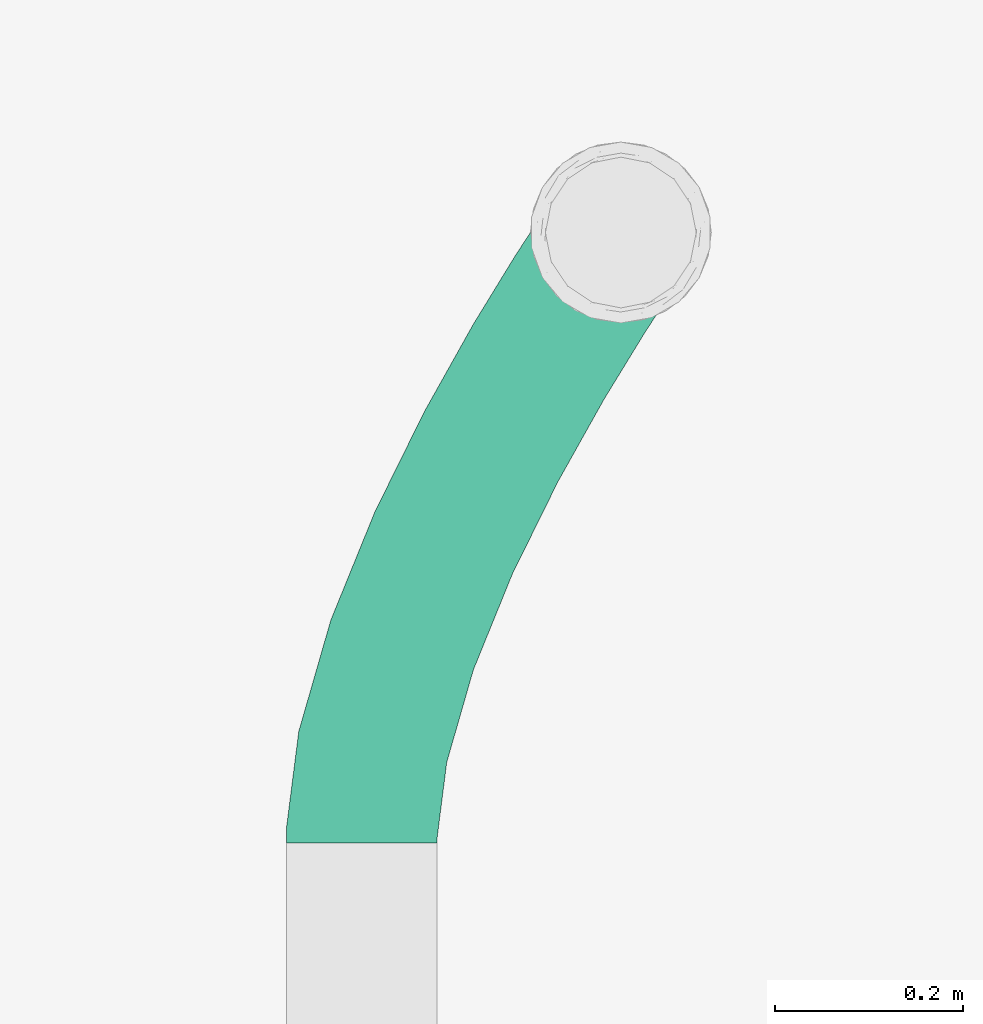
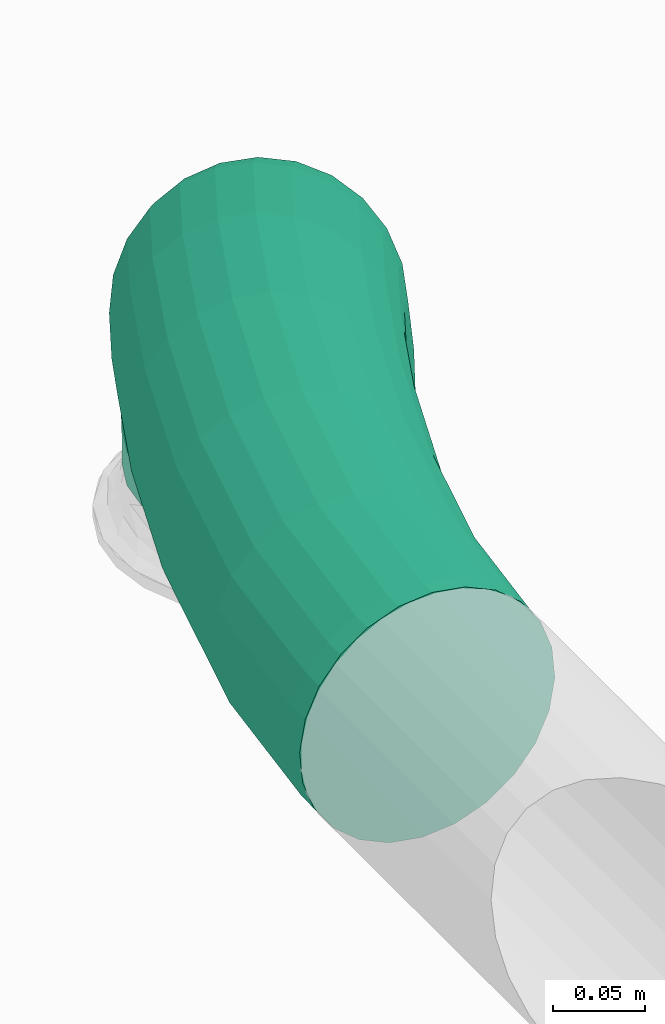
# One storey, part 29 of 31: 1 flow segment.
"""IFC2X3 building model written with IfcOpenShell, lengths in millimetres."""

import ifcopenshell
import ifcopenshell.guid

model = None  # the IFC model being written
_history = None  # IfcOwnerHistory: only IFC2X3 demands one
_inside = {}  # id of a spatial element -> (the spatial element, [elements in it])
_under = {}  # id of a project, library or spatial element -> (it, [spatial elements below it])
_declared = {}  # id of a project -> (the project, [libraries it declares])
_typed = {}  # id of a type object -> (the type object, [elements of that type])
_made_of = {}  # id of a material, layer set ... -> (it, [elements and type objects made of it])


def new_model(schema):
    """Start an empty IFC model of exactly this schema.

    Asked for "IFC4X3", IfcOpenShell would pick the latest addendum, in which some entities
    have other attributes; the version numbers below select the first issue.
    IFC2X3 requires an IfcOwnerHistory on every rooted entity: one is made here for all.
    """
    global model, _history
    if schema == "IFC4X3":
        model = ifcopenshell.file(schema_version=(4, 3, 0, 0))
    else:
        model = ifcopenshell.file(schema=schema)
    _inside.clear()
    _under.clear()
    _declared.clear()
    _typed.clear()
    _made_of.clear()
    _history = None
    if model.schema == "IFC2X3":
        org = make("IfcOrganization", Name="unknown")
        user = make(
            "IfcPersonAndOrganization",
            ThePerson=make("IfcPerson", FamilyName="unknown"),
            TheOrganization=org,
        )
        app = make(
            "IfcApplication",
            ApplicationDeveloper=org,
            Version="unknown",
            ApplicationFullName="unknown",
            ApplicationIdentifier="unknown",
        )
        _history = make(
            "IfcOwnerHistory",
            OwningUser=user,
            OwningApplication=app,
            ChangeAction="ADDED",
            CreationDate=0,
        )
    return model


def make(cls, **values):
    """One entity of the class cls with the attributes given. An attribute that is None is left unset."""
    return model.create_entity(
        cls, **{name: value for name, value in values.items() if value is not None}
    )


def entity(cls, *values):
    """Any entity or typed value of the class cls, its attributes in the order of the schema. None: left unset."""
    e = model.create_entity(cls)
    for i, value in enumerate(values):
        if value is not None:
            e[i] = value
    return e


def rooted(cls, **values):
    """An entity with a GlobalId (a new one), such as an element, a storey or a relation."""
    return make(cls, GlobalId=ifcopenshell.guid.new(), OwnerHistory=_history, **values)


def si_unit(unit_type, name, prefix=None):
    """IfcSIUnit, for example si_unit("LENGTHUNIT", "METRE", prefix="MILLI")."""
    return make("IfcSIUnit", UnitType=unit_type, Prefix=prefix, Name=name)


def converted_unit(unit_type, name, factor, base, dimensions=None, offset=None):
    """IfcConversionBasedUnit, such as the inch: factor (a typed value) times the base unit."""
    return make(
        "IfcConversionBasedUnit"
        if offset is None
        else "IfcConversionBasedUnitWithOffset",
        ConversionOffset=offset,
        Dimensions=None
        if dimensions is None
        else entity("IfcDimensionalExponents", *dimensions),
        UnitType=unit_type,
        Name=name,
        ConversionFactor=make(
            "IfcMeasureWithUnit", ValueComponent=factor, UnitComponent=base
        ),
    )


def derived_unit(unit_type, elements):
    """IfcDerivedUnit: a product of units, each with its exponent."""
    return make(
        "IfcDerivedUnit",
        Elements=[
            make("IfcDerivedUnitElement", Unit=unit, Exponent=power)
            for unit, power in elements
        ],
        UnitType=unit_type,
    )


def assignment(units):
    """IfcUnitAssignment: the units of a project."""
    return None if units is None else make("IfcUnitAssignment", Units=units)


def point(xyz):
    """IfcCartesianPoint."""
    return None if xyz is None else make("IfcCartesianPoint", Coordinates=xyz)


def direction(xyz):
    """IfcDirection."""
    return None if xyz is None else make("IfcDirection", DirectionRatios=xyz)


def frame(location, z_axis=None, x_axis=None):
    """IfcAxis2Placement3D, a coordinate frame: its origin and axes. An axis left out is left unset."""
    return make(
        "IfcAxis2Placement3D",
        Location=point(location),
        Axis=direction(z_axis),
        RefDirection=direction(x_axis),
    )


def origin():
    """The frame at (0, 0, 0) with its axes left unset."""
    return frame((0.0, 0.0, 0.0))


def place(relative_to, where):
    """IfcLocalPlacement: puts the frame where relative to a parent placement (None: the world)."""
    return make(
        "IfcLocalPlacement", PlacementRelTo=relative_to, RelativePlacement=where
    )


def context(
    kind, dimensions, precision=None, world=None, true_north=None, identifier=None
):
    """IfcGeometricRepresentationContext, for example the 3D "Model" context."""
    return make(
        "IfcGeometricRepresentationContext",
        ContextIdentifier=identifier,
        ContextType=kind,
        CoordinateSpaceDimension=dimensions,
        Precision=precision,
        WorldCoordinateSystem=world,
        TrueNorth=true_north,
    )


def subcontext(parent, identifier, kind, view, scale=None):
    """IfcGeometricRepresentationSubContext, for example "Body" below "Model"."""
    return make(
        "IfcGeometricRepresentationSubContext",
        ContextIdentifier=identifier,
        ContextType=kind,
        ParentContext=parent,
        TargetScale=scale,
        TargetView=view,
    )


def project(units=None, contexts=None):
    """IfcProject with its units and contexts."""
    return rooted(
        "IfcProject",
        Name="project",
        RepresentationContexts=contexts,
        UnitsInContext=assignment(units),
    )


def spatial(cls, under=None, at=None, **own):
    """A site, building, storey or space (cls), placed at a placement, below another one or the project."""
    s = rooted(cls, ObjectPlacement=at, **own)
    if under is not None:
        _under.setdefault(under.id(), (under, []))[1].append(s)
    return s


def faces_of(points, faces, orient=None, outer=None):
    """IfcFace entities. A face is a list of loops; a loop is a list of indices into points, from 0.

    orient and outer hold one flag for each loop. By default every Orientation is true, the
    first loop of a face is its IfcFaceOuterBound and the others are IfcFaceBound.
    """
    made = []
    for i, loops in enumerate(faces):
        bounds = []
        for j, loop in enumerate(loops):
            is_outer = j == 0 if outer is None else outer[i][j]
            bounds.append(
                make(
                    "IfcFaceOuterBound" if is_outer else "IfcFaceBound",
                    Bound=make("IfcPolyLoop", Polygon=[points[k] for k in loop]),
                    Orientation=True if orient is None else orient[i][j],
                )
            )
        made.append(make("IfcFace", Bounds=bounds))
    return made


def faceted_brep(points, faces, orient=None, outer=None, voids=None):
    """IfcFacetedBrep: a solid bounded by flat faces; with voids (closed shells), ...WithVoids."""
    shared = [point(p) for p in points]
    hull = make("IfcClosedShell", CfsFaces=faces_of(shared, faces, orient, outer))
    if voids is None:
        return make("IfcFacetedBrep", Outer=hull)
    return make(
        "IfcFacetedBrepWithVoids",
        Outer=hull,
        Voids=[
            make(cls, CfsFaces=faces_of(shared, fs, o, b)) for cls, fs, o, b in voids
        ],
    )


def shape(context_of_items, identifier, shape_type, items):
    """IfcShapeRepresentation: the items that make up one representation, for example the "Body"."""
    return make(
        "IfcShapeRepresentation",
        ContextOfItems=context_of_items,
        RepresentationIdentifier=identifier,
        RepresentationType=shape_type,
        Items=items,
    )


def made_of(thing, what):
    """Note that an element or type object is made of a material, layer set ...; save() writes the relation."""
    if what is not None:
        _made_of.setdefault(what.id(), (what, []))[1].append(thing)
    return thing


def type_object(cls, material=None, **own):
    """A type object (cls), such as IfcWallType, which elements share."""
    return made_of(rooted(cls, **own), material)


def element(
    cls,
    number,
    at=None,
    inside=None,
    cuts=None,
    type_object=None,
    material=None,
    context=None,
    identifier="Body",
    shape_type=None,
    held_by="IfcProductDefinitionShape",
    body=None,
    shapes=None,
    **own,
):
    """One element of the class cls, such as IfcWall. Its Tag is "e" and its number.

    at: its placement. inside: the storey or other place that contains it. cuts: it is an
    opening in that element (IfcRelVoidsElement). A single representation is given by context,
    identifier, shape_type and body (its items); several are given by shapes. held_by: the class
    of the entity that holds the representations. save() writes the other relations.
    """
    e = rooted(cls, Tag="e%d" % number, ObjectPlacement=at, **own)
    if body is not None:
        shapes = [shape(context, identifier, shape_type, body)]
    if shapes is not None:
        e.Representation = make(held_by, Representations=shapes)
    if inside is not None:
        _inside.setdefault(inside.id(), (inside, []))[1].append(e)
    if cuts is not None:
        rooted(
            "IfcRelVoidsElement", RelatingBuildingElement=cuts, RelatedOpeningElement=e
        )
    if type_object is not None:
        _typed.setdefault(type_object.id(), (type_object, []))[1].append(e)
    return made_of(e, material)


def aggregate(whole, parts):
    """IfcRelAggregates: a whole, such as a stair, and the parts it consists of."""
    return rooted("IfcRelAggregates", RelatingObject=whole, RelatedObjects=parts)


def save(model, path):
    """Write the relations noted so far, then the file.

    IfcRelAggregates (storeys below a building ...), IfcRelContainedInSpatialStructure (elements
    in a storey), IfcRelDefinesByType, IfcRelAssociatesMaterial and IfcRelDeclares: one each for
    every whole, place, type object, material and project.
    """
    for whole, parts in _under.values():
        aggregate(whole, parts)
    for where, things in _inside.values():
        rooted(
            "IfcRelContainedInSpatialStructure",
            RelatedElements=things,
            RelatingStructure=where,
        )
    for kind, things in _typed.values():
        rooted("IfcRelDefinesByType", RelatedObjects=things, RelatingType=kind)
    for what, things in _made_of.values():
        rooted("IfcRelAssociatesMaterial", RelatedObjects=things, RelatingMaterial=what)
    for by, libraries in _declared.values():
        rooted("IfcRelDeclares", RelatingContext=by, RelatedDefinitions=libraries)
    model.write(path)


model = new_model("IFC2X3")

# Units and contexts
model_context = context("Model", 3, precision=0.01, world=origin(), true_north=direction((6.123031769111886e-17, 1.0)))
body_context = subcontext(model_context, "Body", "Model", "MODEL_VIEW")
ifc_project = project(units=[si_unit("LENGTHUNIT", "METRE", prefix="MILLI"), si_unit("AREAUNIT", "SQUARE_METRE"), si_unit("VOLUMEUNIT", "CUBIC_METRE"), converted_unit("PLANEANGLEUNIT", "DEGREE", entity("IfcRatioMeasure", 0.017453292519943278), si_unit("PLANEANGLEUNIT", "RADIAN"), dimensions=[0, 0, 0, 0, 0, 0, 0]), si_unit("MASSUNIT", "GRAM", prefix="KILO"), derived_unit("MASSDENSITYUNIT", [(si_unit("MASSUNIT", "GRAM", prefix="KILO"), 1), (si_unit("LENGTHUNIT", "METRE"), -3)]), derived_unit("MOMENTOFINERTIAUNIT", [(si_unit("LENGTHUNIT", "METRE"), 4)]), si_unit("TIMEUNIT", "SECOND"), si_unit("FREQUENCYUNIT", "HERTZ"), si_unit("THERMODYNAMICTEMPERATUREUNIT", "DEGREE_CELSIUS"), derived_unit("THERMALTRANSMITTANCEUNIT", [(si_unit("MASSUNIT", "GRAM", prefix="KILO"), 1), (si_unit("THERMODYNAMICTEMPERATUREUNIT", "KELVIN"), -1), (si_unit("TIMEUNIT", "SECOND"), -3)]), derived_unit("VOLUMETRICFLOWRATEUNIT", [(si_unit("LENGTHUNIT", "METRE"), 3), (si_unit("TIMEUNIT", "SECOND"), -1)]), derived_unit("MASSFLOWRATEUNIT", [(si_unit("MASSUNIT", "GRAM", prefix="KILO"), 1), (si_unit("TIMEUNIT", "SECOND"), -1)]), derived_unit("ROTATIONALFREQUENCYUNIT", [(si_unit("TIMEUNIT", "SECOND"), -1)]), si_unit("ELECTRICCURRENTUNIT", "AMPERE"), si_unit("ELECTRICVOLTAGEUNIT", "VOLT"), si_unit("POWERUNIT", "WATT"), si_unit("FORCEUNIT", "NEWTON", prefix="KILO"), si_unit("ILLUMINANCEUNIT", "LUX"), si_unit("LUMINOUSFLUXUNIT", "LUMEN"), si_unit("LUMINOUSINTENSITYUNIT", "CANDELA"), derived_unit("USERDEFINED", [(si_unit("MASSUNIT", "GRAM", prefix="KILO"), -1), (si_unit("LENGTHUNIT", "METRE"), -2), (si_unit("TIMEUNIT", "SECOND"), 3), (si_unit("LUMINOUSFLUXUNIT", "LUMEN"), 1)]), derived_unit("SOUNDPOWERUNIT", [(si_unit("MASSUNIT", "GRAM", prefix="KILO"), 1), (si_unit("LENGTHUNIT", "METRE"), 2), (si_unit("TIMEUNIT", "SECOND"), -3)]), derived_unit("SOUNDPRESSUREUNIT", [(si_unit("MASSUNIT", "GRAM", prefix="KILO"), 1), (si_unit("LENGTHUNIT", "METRE"), -1), (si_unit("TIMEUNIT", "SECOND"), -2)]), derived_unit("LINEARVELOCITYUNIT", [(si_unit("LENGTHUNIT", "METRE"), 1), (si_unit("TIMEUNIT", "SECOND"), -1)]), si_unit("PRESSUREUNIT", "PASCAL"), derived_unit("USERDEFINED", [(si_unit("LENGTHUNIT", "METRE"), -2), (si_unit("MASSUNIT", "GRAM", prefix="KILO"), 1), (si_unit("TIMEUNIT", "SECOND"), -2)]), derived_unit("LINEARFORCEUNIT", [(si_unit("MASSUNIT", "GRAM", prefix="KILO"), 1), (si_unit("LENGTHUNIT", "METRE"), 1), (si_unit("TIMEUNIT", "SECOND"), -2), (si_unit("LENGTHUNIT", "METRE"), -1)]), derived_unit("PLANARFORCEUNIT", [(si_unit("MASSUNIT", "GRAM", prefix="KILO"), 1), (si_unit("LENGTHUNIT", "METRE"), 1), (si_unit("TIMEUNIT", "SECOND"), -2), (si_unit("LENGTHUNIT", "METRE"), -2)])], contexts=[model_context])

# Site, building, storey
site_placement = place(None, origin())
site = spatial("IfcSite", under=ifc_project, at=site_placement, Name="Default", CompositionType="ELEMENT")
building_placement = place(site_placement, origin())
building = spatial("IfcBuilding", under=site, at=building_placement, CompositionType="ELEMENT")
storey_placement = place(building_placement, frame((0.0, 0.0, 3880.0)))
storey = spatial("IfcBuildingStorey", under=building, at=storey_placement, Name="Niveau 1", CompositionType="ELEMENT", Elevation=3880.0)

# Flow segment
duct_segment_type = type_object("IfcDuctSegmentType", Name="Gaine flexible circulaire:Souple - Circulaire piquage Aldes", PredefinedType="FLEXIBLESEGMENT")
flow_segment_placement = place(storey_placement, frame((-2276.532732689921, -2167.5525328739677, 2827.5000000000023)))
element("IfcFlowSegment", 1, at=flow_segment_placement, inside=storey, type_object=duct_segment_type, Name="Gaine flexible circulaire:Souple - Circulaire piquage Aldes", ObjectType="Gaine flexible circulaire:Souple - Circulaire piquage Aldes", context=body_context, shape_type="Brep", body=[
    faceted_brep([(287.2507003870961, 607.5525328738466, 0.0), (279.25866658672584, 626.8470092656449, 0.0), (276.53273268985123, 647.5525328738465, 0.0), (279.25866658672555, 668.258056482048, 0.0), (287.25070038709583, 687.5525328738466, 0.0), (299.96419019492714, 704.1210753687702, 0.0), (316.5327326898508, 716.8345651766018, 0.0), (335.8272090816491, 724.826598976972, 0.0), (356.5327326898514, 727.5525328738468, 0.0), (377.238256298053, 724.826598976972, 0.0), (396.5327326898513, 716.8345651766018, 0.0), (413.1012751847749, 704.1210753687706, 0.0), (425.81476499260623, 687.5525328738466, 0.0), (433.80679879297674, 668.2580564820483, 0.0), (436.5327326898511, 647.5525328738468, 0.0), (433.80679879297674, 626.8470092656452, 0.0), (425.81476499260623, 607.5525328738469, 0.0), (413.1012751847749, 590.983990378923, 0.0), (396.5327326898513, 578.2705005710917, 0.0), (377.238256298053, 570.2784667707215, 0.0), (356.5327326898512, 567.5525328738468, 0.0), (335.8272090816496, 570.2784667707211, 0.0), (316.5327326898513, 578.2705005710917, 0.0), (299.96419019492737, 590.9839903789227, 0.0), (436.5327326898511, 647.5525328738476, 25.1649569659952), (433.80679879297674, 626.847009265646, 22.42221783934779), (425.81476499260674, 607.5525328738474, 19.412461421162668), (413.1012751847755, 590.9839903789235, 16.34079763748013), (377.238256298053, 570.2784667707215, 10.839016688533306), (356.5327326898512, 567.5525328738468, 8.78383680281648), (396.5327326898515, 578.2705005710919, 13.416555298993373), (335.82720908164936, 570.2784667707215, 7.391072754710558), (316.53273268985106, 578.2705005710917, 6.7556391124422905), (299.96419019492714, 590.983990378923, 6.920839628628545), (279.25866658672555, 626.8470092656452, 9.554315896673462), (276.53273268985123, 647.5525328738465, 11.843124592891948), (287.2507003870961, 607.5525328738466, 7.875416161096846), (287.25070038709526, 687.5525328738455, 17.595620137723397), (299.964190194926, 704.1210753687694, 20.667283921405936), (279.25866658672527, 668.2580564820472, 14.58586371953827), (316.5327326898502, 716.8345651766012, 23.59152625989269), (335.8272090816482, 724.8265989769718, 26.169064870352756), (356.5327326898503, 727.5525328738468, 28.22424475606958), (377.2382562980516, 724.8265989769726, 29.617008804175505), (396.5327326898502, 716.8345651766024, 30.252442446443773), (413.10127518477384, 704.1210753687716, 30.08724193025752), (425.8147649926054, 687.5525328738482, 29.132665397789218), (433.8067987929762, 668.2580564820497, 27.4537656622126), (63.8982901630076, 0.0, 400.5322140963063), (44.30294608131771, 0.0, 393.3092013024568), (27.244750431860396, 0.0, 381.2606584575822), (13.886191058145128, 0.0, 365.20767384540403), (5.137631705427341, 0.0, 346.24423183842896), (1.5952722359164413, 0.0, 325.662659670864), (3.5005185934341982, 0.0, 304.8655574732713), (10.723531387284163, 0.0, 285.2702133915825), (22.77207423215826, 0.0, 268.21201774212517), (38.825058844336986, 0.0, 254.85345836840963), (57.78850085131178, 0.0, 246.1048990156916), (78.37007301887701, 0.0, 242.56253954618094), (99.16717521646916, 0.0, 244.4677859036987), (118.7625192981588, 0.0, 251.69079869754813), (135.82071494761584, 0.0, 263.7393415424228), (149.1792743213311, 0.0, 279.79232615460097), (157.92783367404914, 0.0, 298.75576816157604), (161.47019314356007, 0.0, 319.337340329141), (159.5649467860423, 0.0, 340.13444252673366), (152.3419339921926, 0.0, 359.7297866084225), (140.29339114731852, 0.0, 376.7879822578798), (124.24040653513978, 0.0, 390.1465416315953), (105.27696452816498, 0.0, 398.8951009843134), (84.69539236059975, 0.0, 402.43746045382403), (422.28438373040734, 626.7600691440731, 108.87251795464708), (420.6020166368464, 607.5774114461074, 99.99893292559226), (413.74816516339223, 589.9438723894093, 90.30247429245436), (402.18990796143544, 575.0611485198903, 80.44393968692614), (386.7149211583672, 563.9434728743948, 71.09517195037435), (368.377799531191, 557.3484966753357, 62.89327415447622), (348.4281876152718, 555.7256566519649, 56.39719207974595), (328.2256184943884, 559.1855466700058, 52.04962298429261), (309.1468638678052, 567.4923809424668, 50.14684651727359), (292.49210933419, 580.0800624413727, 50.81853375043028), (270.75203697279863, 614.4333753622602, 59.529875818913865), (267.1482691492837, 633.8578852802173, 66.97586708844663), (279.3963488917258, 596.0907614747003, 54.018910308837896), (268.83063624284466, 653.0405429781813, 75.84945211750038), (275.6844877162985, 670.6740820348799, 85.54591075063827), (287.2427449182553, 685.5568059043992, 95.40444535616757), (302.71773172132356, 696.6744815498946, 104.75321309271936), (321.05485334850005, 703.2694577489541, 112.95511088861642), (341.00446526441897, 704.8922977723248, 119.45119296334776), (361.20703438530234, 701.4324077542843, 123.79876205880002), (380.2857890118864, 693.1255734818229, 125.70153852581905), (396.9405435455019, 680.5378919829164, 125.02985129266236), (410.0363039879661, 664.5271929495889, 121.82947473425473), (418.6806159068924, 646.1845790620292, 116.31850922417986), (386.2647676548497, 571.6548668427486, 191.31161825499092), (386.8718528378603, 555.9747653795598, 177.19809992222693), (382.48312781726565, 542.1125405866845, 161.85963759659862), (373.3976769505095, 531.0128801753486, 146.34152213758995), (360.2346586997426, 523.4322076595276, 131.7012874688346), (343.89111100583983, 519.8871333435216, 118.93664138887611), (325.4808196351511, 520.6192481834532, 108.91747343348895), (306.2584155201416, 525.5786597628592, 102.32657334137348), (287.5338737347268, 534.427392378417, 99.613100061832), (270.58324085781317, 546.5624195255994, 100.96197231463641), (246.42472125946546, 577.215831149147, 115.20848205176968), (240.86319772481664, 593.6452362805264, 127.13524344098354), (256.56167450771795, 561.1567591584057, 106.28126668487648), (240.2561125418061, 609.325337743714, 141.24876177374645), (244.6448375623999, 623.1875625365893, 156.58722409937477), (253.7302884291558, 634.2872229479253, 172.10533955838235), (266.8933066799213, 641.8678954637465, 186.7455742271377), (283.2368543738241, 645.4129697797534, 199.51022030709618), (301.64714574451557, 644.6808549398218, 209.5293882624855), (320.8695498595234, 639.7214433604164, 216.1202883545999), (339.5940916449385, 630.8727107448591, 218.83376163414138), (356.54472452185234, 618.7376835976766, 217.48488938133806), (370.5662908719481, 604.1433439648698, 212.165595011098), (380.7032441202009, 588.0842719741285, 203.2383796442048), (338.3290822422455, 493.32744239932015, 252.46260142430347), (341.13999174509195, 481.24841352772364, 235.5376906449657), (339.070186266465, 471.17532815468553, 217.24101026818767), (332.26071962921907, 463.7946504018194, 198.8194488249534), (321.1756457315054, 459.60936126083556, 181.5284052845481), (306.5703940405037, 458.90468127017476, 166.5462356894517), (289.4402883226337, 461.7286332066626, 154.89395013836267), (270.9527169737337, 467.8887694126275, 147.36563263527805), (252.36757742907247, 476.96528678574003, 144.47432557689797), (234.9514162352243, 488.33963566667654, 146.41706676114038), (208.21301128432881, 514.7774869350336, 163.95470552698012), (200.71294563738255, 528.0392934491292, 178.35444200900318), (219.89111599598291, 501.23667297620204, 153.0614615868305), (197.9020361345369, 540.1183223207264, 195.279352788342), (199.97184161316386, 550.1914076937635, 213.57603316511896), (206.7813082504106, 557.5720854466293, 231.99759460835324), (217.86638214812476, 561.757374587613, 249.2886381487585), (232.47163383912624, 562.4620545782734, 264.2708077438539), (249.60173955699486, 559.6381026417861, 275.9230932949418), (268.0893109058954, 553.4779664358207, 283.4514107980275), (286.6744504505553, 544.4014490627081, 286.3427178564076), (304.09061164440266, 533.0271001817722, 284.39997667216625), (319.150911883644, 520.1300628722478, 277.75558184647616), (330.8290165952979, 506.58924891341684, 266.8623379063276), (290.45406254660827, 390.7286051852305, 278.28613681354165), (289.9674219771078, 383.4828880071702, 258.65421723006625), (286.0734575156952, 400.00432077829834, 296.5349267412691), (284.64669955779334, 378.76095289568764, 238.97705086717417), (274.8544937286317, 376.88459192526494, 220.5956040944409), (261.2581271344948, 377.9816759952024, 204.7625421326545), (244.78416968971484, 381.9774406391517, 192.55686198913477), (226.55529436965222, 388.5995810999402, 184.8103605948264), (207.81376890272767, 397.3968094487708, 182.05094921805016), (189.8367972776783, 407.76960911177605, 184.4666771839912), (160.94132750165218, 430.3551665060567, 203.82358159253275), (151.9920078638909, 441.0287558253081, 219.44561698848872), (173.8494804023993, 419.01109093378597, 191.89291662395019), (147.61140283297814, 450.30447141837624, 237.69440691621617), (148.09804340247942, 457.5501885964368, 257.3263264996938), (153.41876582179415, 462.2721237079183, 277.0034928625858), (163.21097165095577, 464.1484846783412, 295.38493963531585), (176.80733824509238, 463.05140060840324, 311.21800159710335), (193.28129568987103, 459.0556359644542, 323.4236817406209), (211.51017100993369, 452.4334955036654, 331.17018313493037), (230.25169647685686, 443.63626715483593, 333.9295945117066), (248.22866810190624, 433.2634674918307, 331.51386654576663), (264.2159849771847, 422.0219856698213, 324.08762710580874), (277.12413787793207, 410.6779100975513, 312.1569621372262), (240.94683651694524, 290.4562785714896, 308.1829064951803), (241.51465889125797, 285.34627896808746, 287.91421045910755), (235.44491125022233, 297.4608633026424, 327.1088471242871), (237.1096822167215, 282.4791025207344, 267.68403715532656), (228.03209837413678, 282.05014256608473, 248.87103946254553), (214.90052970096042, 284.0886320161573, 232.75729208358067), (198.6098709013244, 288.4556511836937, 220.44092027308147), (180.2703034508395, 294.85359492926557, 212.76126441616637), (161.13163856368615, 302.8464539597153, 210.24168036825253), (142.49814462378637, 311.88952814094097, 213.05387361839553), (111.70507267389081, 330.6316671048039, 233.55671529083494), (101.64399162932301, 339.0534860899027, 249.85012893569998), (125.63966344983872, 321.3665469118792, 221.00619784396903), (96.14206636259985, 346.05807082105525, 268.77606956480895), (95.57424398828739, 351.16807042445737, 289.04476560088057), (99.97922066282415, 354.0352468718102, 309.27493890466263), (109.05680450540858, 354.4642068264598, 328.0879365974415), (122.18837317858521, 352.42571737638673, 344.2016839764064), (138.4790319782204, 348.0586982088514, 356.51805578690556), (156.8185994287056, 341.66075446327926, 364.1977116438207), (175.9572643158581, 333.66789543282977, 366.71729569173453), (194.59075825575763, 324.62482125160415, 363.9051024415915), (211.44923942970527, 315.1478024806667, 355.9527782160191), (225.3838302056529, 305.8826822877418, 343.4022607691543), (198.82904617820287, 186.94349877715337, 327.22021184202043), (200.11300104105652, 183.59353606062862, 306.62782283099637), (192.47979069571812, 191.8656023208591, 346.52914701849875), (196.2441558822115, 182.04400859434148, 286.15531726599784), (174.43587424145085, 184.638757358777, 251.04737794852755), (157.98263611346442, 188.60620574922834, 238.80449224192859), (187.48616610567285, 182.40051411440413, 267.19786256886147), (139.24771270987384, 194.03248423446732, 231.303537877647), (119.50785809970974, 200.54780090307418, 229.05569249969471), (100.10831075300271, 207.7081476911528, 232.21414305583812), (82.37111776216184, 215.0255587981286, 240.5636463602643), (67.50503951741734, 222.0013647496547, 253.53519756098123), (56.52317468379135, 228.16017589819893, 270.24480688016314), (50.1739192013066, 233.08227944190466, 289.55374205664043), (48.88996433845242, 236.43224215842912, 310.1461310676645), (52.75880949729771, 237.98176962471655, 330.6186366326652), (61.516799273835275, 237.62526410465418, 349.5760913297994), (74.56709113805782, 235.3870208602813, 365.72657595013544), (91.0203292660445, 231.41957246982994, 377.9694616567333), (109.75525266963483, 225.993293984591, 385.470416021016), (129.49510727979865, 219.47797731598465, 387.71826139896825), (148.89465462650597, 212.31763052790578, 384.5598108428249), (166.63184761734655, 205.00021942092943, 376.2103075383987), (181.4979258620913, 198.02441346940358, 363.23875633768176), (170.10760897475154, 87.2589407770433, 337.21117180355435), (171.85122277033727, 85.50433337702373, 316.4588871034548), (163.13303229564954, 90.01071883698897, 356.73762948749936), (168.24504928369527, 84.86647023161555, 295.8950092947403), (146.31419089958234, 87.03578734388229, 260.829709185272), (129.48405775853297, 89.69513222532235, 248.71792913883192), (159.534843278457, 85.38882066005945, 276.9209326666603), (110.19138961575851, 93.18562534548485, 241.41099032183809), (89.75094992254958, 97.2693953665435, 239.4068485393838), (69.5557208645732, 101.66814011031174, 242.8420827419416), (50.98197392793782, 106.08209239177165, 251.48258739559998), (35.29547927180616, 110.21044865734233, 264.73952638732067), (23.56524558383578, 113.77186824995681, 281.70946123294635), (16.590668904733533, 116.52364630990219, 301.2359189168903), (14.847055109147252, 118.27825370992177, 321.98820361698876), (18.45322859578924, 118.91611685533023, 342.5520814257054), (27.163434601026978, 118.39376642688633, 361.5261580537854), (40.384086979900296, 116.74679974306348, 377.61738153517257), (57.21422012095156, 114.08745486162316, 389.72916158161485), (76.50688826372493, 110.59696174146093, 397.03610039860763), (96.94732795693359, 106.51319172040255, 399.0402421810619), (117.1425570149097, 102.11444697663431, 395.60500797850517), (135.71630395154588, 97.70049469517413, 386.9645033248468), (151.40279860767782, 93.57213842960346, 373.70756433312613), (159.56494678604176, 4.577578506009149, 340.13444252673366), (161.47019314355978, 4.090582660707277, 319.337340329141), (152.34193399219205, 5.380983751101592, 359.7297866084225), (157.92783367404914, 3.953184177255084, 298.75576816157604), (135.82071494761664, 4.740170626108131, 263.7393415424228), (118.76251929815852, 5.610923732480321, 251.69079869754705), (149.1792743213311, 4.174746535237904, 279.7923261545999), (99.16717521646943, 6.727665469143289, 244.46778590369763), (78.37007301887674, 8.014291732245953, 242.56253954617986), (57.78850085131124, 9.383121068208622, 246.1048990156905), (38.82505884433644, 10.740870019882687, 254.85345836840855), (22.772074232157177, 11.995010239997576, 268.2120177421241), (10.723531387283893, 13.06007414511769, 285.27021339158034), (3.500518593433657, 13.863479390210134, 304.8655574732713), (1.5952722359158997, 14.350475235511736, 325.662659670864), (5.13763170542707, 14.487873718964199, 346.24423183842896), (13.886191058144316, 14.26631136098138, 365.20767384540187), (27.244750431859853, 13.700887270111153, 381.26065845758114), (44.30294608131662, 12.830134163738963, 393.30920130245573), (63.898290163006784, 11.713392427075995, 400.53221409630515), (84.6953923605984, 10.426766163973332, 402.43746045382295), (105.27696452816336, 9.05793682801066, 398.8951009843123), (124.24040653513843, 7.700187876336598, 390.1465416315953), (140.29339114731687, 6.446047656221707, 376.7879822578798)], [[[0, 1, 2, 3, 4, 5, 6, 7, 8, 9, 10, 11, 12, 13, 14, 15, 16, 17, 18, 19, 20, 21, 22, 23]], [[14, 24, 25, 15]], [[15, 25, 26, 16]], [[16, 26, 27, 17]], [[28, 29, 20, 19]], [[30, 28, 19, 18]], [[17, 27, 30, 18]], [[29, 31, 21, 20]], [[32, 22, 21, 31]], [[23, 22, 32, 33]], [[34, 35, 2, 1]], [[36, 34, 1, 0]], [[33, 36, 0, 23]], [[4, 37, 38, 5]], [[39, 37, 4, 3]], [[2, 35, 39, 3]], [[7, 6, 40, 41]], [[8, 7, 41, 42]], [[38, 40, 6, 5]], [[10, 9, 43, 44]], [[10, 44, 45, 11]], [[8, 42, 43, 9]], [[12, 46, 47, 13]], [[13, 47, 24, 14]], [[11, 45, 46, 12]], [[48, 49, 50, 51, 52, 53, 54, 55, 56, 57, 58, 59, 60, 61, 62, 63, 64, 65, 66, 67, 68, 69, 70, 71]], [[24, 72, 73, 25]], [[25, 73, 74, 26]], [[26, 74, 75, 27]], [[76, 77, 28, 30]], [[76, 30, 27, 75]], [[78, 29, 28, 77]], [[79, 80, 32, 31]], [[78, 79, 31, 29]], [[33, 32, 80, 81]], [[82, 83, 35, 34]], [[84, 82, 34, 36]], [[81, 84, 36, 33]], [[85, 86, 37, 39]], [[83, 85, 39, 35]], [[38, 37, 86, 87]], [[41, 40, 88, 89]], [[42, 41, 89, 90]], [[87, 88, 40, 38]], [[43, 42, 90, 91]], [[44, 43, 91, 92]], [[93, 45, 44, 92]], [[45, 93, 94, 46]], [[46, 94, 95, 47]], [[72, 24, 47, 95]], [[73, 72, 96, 97]], [[74, 73, 97, 98]], [[98, 99, 75, 74]], [[100, 101, 77, 76]], [[99, 100, 76, 75]], [[78, 77, 101, 102]], [[103, 104, 80, 79]], [[102, 103, 79, 78]], [[81, 80, 104, 105]], [[106, 107, 83, 82]], [[108, 106, 82, 84]], [[108, 84, 81, 105]], [[109, 110, 86, 85]], [[107, 109, 85, 83]], [[111, 87, 86, 110]], [[88, 112, 113, 89]], [[89, 113, 114, 90]], [[112, 88, 87, 111]], [[90, 114, 115, 91]], [[91, 115, 116, 92]], [[117, 93, 92, 116]], [[94, 93, 117, 118]], [[95, 94, 118, 119]], [[72, 95, 119, 96]], [[97, 96, 120, 121]], [[98, 97, 121, 122]], [[122, 123, 99, 98]], [[124, 125, 101, 100]], [[123, 124, 100, 99]], [[102, 101, 125, 126]], [[127, 128, 104, 103]], [[126, 127, 103, 102]], [[105, 104, 128, 129]], [[130, 131, 107, 106]], [[132, 130, 106, 108]], [[132, 108, 105, 129]], [[133, 134, 110, 109]], [[131, 133, 109, 107]], [[110, 134, 135, 111]], [[112, 136, 137, 113]], [[113, 137, 138, 114]], [[136, 112, 111, 135]], [[114, 138, 139, 115]], [[115, 139, 140, 116]], [[141, 117, 116, 140]], [[118, 117, 141, 142]], [[119, 118, 142, 143]], [[96, 119, 143, 120]], [[144, 145, 122, 121]], [[146, 144, 121, 120]], [[123, 122, 145, 147]], [[148, 149, 125, 124]], [[147, 148, 124, 123]], [[126, 125, 149, 150]], [[151, 152, 128, 127]], [[150, 151, 127, 126]], [[129, 128, 152, 153]], [[154, 155, 131, 130]], [[156, 154, 130, 132]], [[156, 132, 129, 153]], [[131, 155, 157, 133]], [[133, 157, 158, 134]], [[134, 158, 159, 135]], [[136, 160, 161, 137]], [[137, 161, 162, 138]], [[160, 136, 135, 159]], [[138, 162, 163, 139]], [[139, 163, 164, 140]], [[140, 164, 165, 141]], [[142, 141, 165, 166]], [[143, 142, 166, 167]], [[120, 143, 167, 146]], [[168, 169, 145, 144]], [[170, 168, 144, 146]], [[147, 145, 169, 171]], [[171, 172, 148, 147]], [[148, 172, 173, 149]], [[173, 174, 150, 149]], [[175, 176, 152, 151]], [[174, 175, 151, 150]], [[153, 152, 176, 177]], [[178, 179, 155, 154]], [[180, 178, 154, 156]], [[177, 180, 156, 153]], [[155, 179, 181, 157]], [[157, 181, 182, 158]], [[183, 159, 158, 182]], [[160, 184, 185, 161]], [[161, 185, 186, 162]], [[184, 160, 159, 183]], [[162, 186, 187, 163]], [[163, 187, 188, 164]], [[164, 188, 189, 165]], [[165, 189, 190, 166]], [[167, 166, 190, 191]], [[146, 167, 191, 170]], [[192, 193, 169, 168]], [[194, 192, 168, 170]], [[171, 169, 193, 195]], [[196, 197, 174, 173]], [[172, 198, 196, 173]], [[198, 172, 171, 195]], [[199, 200, 176, 175]], [[197, 199, 175, 174]], [[177, 176, 200, 201]], [[178, 180, 202, 203]], [[179, 178, 203, 204]], [[201, 202, 180, 177]], [[179, 204, 205, 181]], [[181, 205, 206, 182]], [[207, 183, 182, 206]], [[183, 207, 208, 184]], [[184, 208, 209, 185]], [[210, 186, 185, 209]], [[186, 210, 211, 187]], [[187, 211, 212, 188]], [[188, 212, 213, 189]], [[189, 213, 214, 190]], [[190, 214, 215, 191]], [[194, 170, 191, 215]], [[216, 217, 193, 192]], [[218, 216, 192, 194]], [[195, 193, 217, 219]], [[220, 221, 197, 196]], [[222, 220, 196, 198]], [[219, 222, 198, 195]], [[223, 224, 200, 199]], [[221, 223, 199, 197]], [[201, 200, 224, 225]], [[203, 202, 226, 227]], [[204, 203, 227, 228]], [[225, 226, 202, 201]], [[205, 204, 228, 229]], [[205, 229, 230, 206]], [[231, 207, 206, 230]], [[207, 231, 232, 208]], [[208, 232, 233, 209]], [[234, 210, 209, 233]], [[210, 234, 235, 211]], [[211, 235, 236, 212]], [[212, 236, 237, 213]], [[238, 239, 215, 214]], [[238, 214, 213, 237]], [[218, 194, 215, 239]], [[240, 241, 217, 216]], [[242, 240, 216, 218]], [[219, 217, 241, 243]], [[244, 245, 221, 220]], [[246, 244, 220, 222]], [[243, 246, 222, 219]], [[247, 248, 224, 223]], [[245, 247, 223, 221]], [[249, 225, 224, 248]], [[226, 250, 251, 227]], [[227, 251, 252, 228]], [[250, 226, 225, 249]], [[228, 252, 253, 229]], [[229, 253, 254, 230]], [[255, 231, 230, 254]], [[231, 255, 256, 232]], [[232, 256, 257, 233]], [[234, 233, 257, 258]], [[235, 234, 258, 259]], [[236, 235, 259, 260]], [[260, 261, 237, 236]], [[262, 263, 239, 238]], [[261, 262, 238, 237]], [[218, 239, 263, 242]], [[240, 242, 67, 66]], [[241, 240, 66, 65]], [[243, 241, 65, 64]], [[62, 61, 245, 244]], [[63, 62, 244, 246]], [[246, 243, 64, 63]], [[245, 61, 60, 247]], [[247, 60, 59, 248]], [[248, 59, 58, 249]], [[250, 57, 56, 251]], [[251, 56, 55, 252]], [[249, 58, 57, 250]], [[252, 55, 54, 253]], [[253, 54, 53, 254]], [[254, 53, 52, 255]], [[257, 256, 51, 50]], [[258, 257, 50, 49]], [[52, 51, 256, 255]], [[259, 258, 49, 48]], [[260, 259, 48, 71]], [[261, 260, 71, 70]], [[263, 262, 69, 68]], [[242, 263, 68, 67]], [[261, 70, 69, 262]]]),
])

save(model, "model.ifc")
